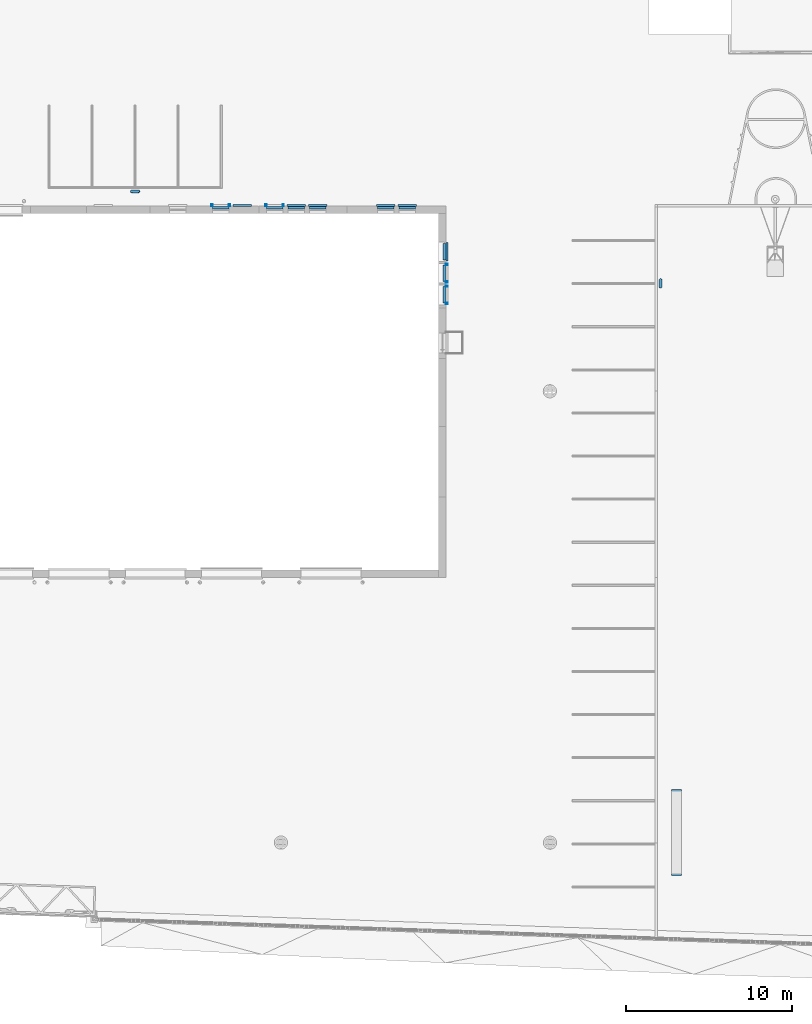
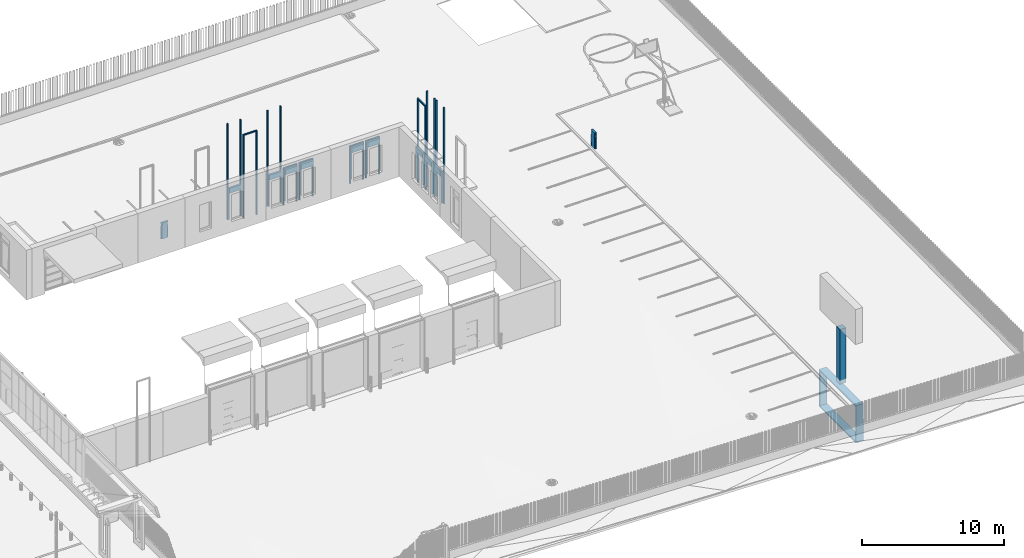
# One storey, part 51 of 77: 22 discrete accessories.
"""IFC2X3 building model written with IfcOpenShell, lengths in millimetres."""

from ifc_helpers import new_model, entity, si_unit, converted_unit, derived_unit, direction, frame, frame_2d, origin, origin_2d_with_axis, place, context, subcontext, project, spatial, polyline, rectangle, outline, extrude, faceted_brep, source, transform, mapped, material, type_object, type_shapes, element, save


model = new_model("IFC2X3")

# Units and contexts
model_context = context("Model", 3, precision=0.01, world=origin(), true_north=direction((6.12303176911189e-17, 1.0)))
body_context = subcontext(model_context, "Body", "Model", "MODEL_VIEW")
ifc_project = project(units=[si_unit("LENGTHUNIT", "METRE", prefix="MILLI"), si_unit("AREAUNIT", "SQUARE_METRE"), si_unit("VOLUMEUNIT", "CUBIC_METRE"), converted_unit("PLANEANGLEUNIT", "DEGREE", entity("IfcRatioMeasure", 0.0174532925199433), si_unit("PLANEANGLEUNIT", "RADIAN"), dimensions=[0, 0, 0, 0, 0, 0, 0]), si_unit("MASSUNIT", "GRAM", prefix="KILO"), derived_unit("MASSDENSITYUNIT", [(si_unit("MASSUNIT", "GRAM", prefix="KILO"), 1), (si_unit("LENGTHUNIT", "METRE"), -3)]), si_unit("TIMEUNIT", "SECOND"), si_unit("FREQUENCYUNIT", "HERTZ"), si_unit("THERMODYNAMICTEMPERATUREUNIT", "DEGREE_CELSIUS"), derived_unit("THERMALTRANSMITTANCEUNIT", [(si_unit("MASSUNIT", "GRAM", prefix="KILO"), 1), (si_unit("THERMODYNAMICTEMPERATUREUNIT", "KELVIN"), -1), (si_unit("TIMEUNIT", "SECOND"), -3)]), derived_unit("VOLUMETRICFLOWRATEUNIT", [(si_unit("LENGTHUNIT", "METRE"), 3), (si_unit("TIMEUNIT", "SECOND"), -1)]), si_unit("ELECTRICCURRENTUNIT", "AMPERE"), si_unit("ELECTRICVOLTAGEUNIT", "VOLT"), si_unit("POWERUNIT", "WATT"), si_unit("FORCEUNIT", "NEWTON", prefix="KILO"), si_unit("ILLUMINANCEUNIT", "LUX"), si_unit("LUMINOUSFLUXUNIT", "LUMEN"), si_unit("LUMINOUSINTENSITYUNIT", "CANDELA"), derived_unit("USERDEFINED", [(si_unit("MASSUNIT", "GRAM", prefix="KILO"), -1), (si_unit("LENGTHUNIT", "METRE"), -2), (si_unit("TIMEUNIT", "SECOND"), 3), (si_unit("LUMINOUSFLUXUNIT", "LUMEN"), 1)]), derived_unit("LINEARVELOCITYUNIT", [(si_unit("LENGTHUNIT", "METRE"), 1), (si_unit("TIMEUNIT", "SECOND"), -1)]), si_unit("PRESSUREUNIT", "PASCAL"), derived_unit("USERDEFINED", [(si_unit("LENGTHUNIT", "METRE"), -2), (si_unit("MASSUNIT", "GRAM", prefix="KILO"), 1), (si_unit("TIMEUNIT", "SECOND"), -2)])], contexts=[model_context])

# Site, building, storey
site_placement = place(None, origin())
site = spatial("IfcSite", under=ifc_project, at=site_placement, Name="Default", CompositionType="ELEMENT")
building_placement = place(site_placement, origin())
building = spatial("IfcBuilding", under=site, at=building_placement, CompositionType="ELEMENT")
storey_placement = place(building_placement, origin())
storey = spatial("IfcBuildingStorey", under=building, at=storey_placement, Name="1. KORRUS", CompositionType="ELEMENT", Elevation=0.0)

# Discrete accessories
ifc_material_1 = material(Name="Must-al-komposiitplaat")
discrete_accessory_type_1 = type_object("IfcDiscreteAccessoryType", Name="akna-ylaplekid1000", material=ifc_material_1)
shared_shape_1 = source(origin(), body_context, "Body", "SweptSolid", [
    extrude(rectangle(XDim=20.0, YDim=959.999999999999, at=origin_2d_with_axis()), frame((0.0, -10.0, 2270.0), z_axis=(0.0, 0.0, 1.0), x_axis=(0.0, 1.0, 0.0)), (0.0, 0.0, 1.0), 409.999999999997),
    extrude(outline(polyline([(-500.0, -1370.0), (500.0, -1370.0), (500.0, 1360.0), (480.0, 1360.0), (480.0, -1350.0), (-480.0, -1350.0), (-480.0, 1360.0), (-500.0, 1360.0), (-500.0, -1370.0)])), frame((0.0, -160.0, 1330.0), z_axis=(0.0, 1.0, 0.0), x_axis=(1.0, 0.0, 0.0)), (0.0, 0.0, 1.0), 160.0),
])
type_shapes(discrete_accessory_type_1, [shared_shape_1])
for number, where, z_axis, x_axis, name in (
    (1, (26350.0493607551, 21770.0517807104, 500.0), (0.0, 0.0, 1.0), (-1.0, 0.0, 0.0), "akna-ylaplekid:akna-ylaplekid1000"),
    (2, (29604.2746587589, 21770.0517807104, 500.0), (0.0, 0.0, 1.0), (-1.0, 0.0, 0.0), "akna-ylaplekid:akna-ylaplekid1000"),
    (3, (30904.2746587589, 21770.0517807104, 500.0), (0.0, 0.0, 1.0), (-1.0, 0.0, 0.0), "akna-ylaplekid:akna-ylaplekid1000"),
    (4, (32204.2746587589, 21770.0517807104, 500.0), (0.0, 0.0, 1.0), (-1.0, 0.0, 0.0), "akna-ylaplekid:akna-ylaplekid1000"),
    (5, (36304.1955551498, 21770.0517807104, 500.0), (0.0, 0.0, 1.0), (-1.0, 0.0, 0.0), "akna-ylaplekid:akna-ylaplekid1000"),
    (6, (37604.1955551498, 21770.0517807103, 500.0), (0.0, 0.0, 1.0), (-1.0, 0.0, 0.0), "akna-ylaplekid:akna-ylaplekid1000"),
    (7, (39770.0, 19200.0, 500.0), (0.0, 0.0, 1.0), (0.0, 1.0, 0.0), "akna-ylaplekid:akna-ylaplekid1000"),
    (8, (39770.0, 17900.0, 500.0), (0.0, 0.0, 1.0), (0.0, 1.0, 0.0), "akna-ylaplekid:akna-ylaplekid1000"),
    (9, (39770.0, 16600.0, 500.0), (0.0, 0.0, 1.0), (0.0, 1.0, 0.0), "akna-ylaplekid:akna-ylaplekid1000"),
):
    element("IfcDiscreteAccessory", number, at=place(storey_placement, frame(where, z_axis=z_axis, x_axis=x_axis)), inside=storey, type_object=discrete_accessory_type_1, material=ifc_material_1, Name=name, ObjectType="akna-ylaplekid1000", context=body_context, shape_type="MappedRepresentation", body=[
        mapped(shared_shape_1, transform((0.0, 0.0, 0.0), scale=1.0)),
    ])
ifc_material_2 = material(Name="Default New Material-must-varv")
discrete_accessory_type_2 = type_object("IfcDiscreteAccessoryType", Name="akna-ylaplekid1000", material=ifc_material_2)
shared_shape_2 = source(origin(), body_context, "Body", "Brep", [
    faceted_brep([(80.0, 120.0, 0.0), (80.0, 0.0, 0.0), (76.0, 0.0, 0.0), (76.0, 116.0, 0.0), (4.0, 116.0, 0.0), (4.0, 0.0, 0.0), (0.0, 0.0, 0.0), (0.0, 120.0, 0.0), (80.0, 116.0, 7184.0), (80.0, 116.0, 7256.31946847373), (80.0, 0.0, 7265.9861351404), (80.0, 0.0, 7184.0), (80.0, 0.0, 7180.0), (1040.0, 0.0, 7180.0), (1040.0, 0.0, 0.0), (1044.0, 0.0, 0.0), (1044.0, 0.0, 7265.9861351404), (1116.0, 0.0, 7265.9861351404), (1116.0, 0.0, 0.0), (1120.0, 0.0, 0.0), (1120.0, 0.0, 7270.0), (0.0, 0.0, 7270.0), (4.0, 0.0, 7265.9861351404), (76.0, 0.0, 7265.9861351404), (1040.0, 0.0, 7184.0), (1040.0, 0.0, 7265.9861351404), (76.0, 116.0, 7256.31946847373), (4.0, 116.0, 7256.31946847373), (0.0, 120.0, 7260.0), (1120.0, 120.0, 7260.0), (1120.0, 120.0, 0.0), (1040.0, 120.0, 0.0), (1040.0, 120.0, 7180.0), (80.0, 120.0, 7180.0), (1040.0, 116.0, 7184.0), (1040.0, 116.0, 7256.31946847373), (1116.0, 116.0, 0.0), (1044.0, 116.0, 0.0), (1044.0, 116.0, 7256.31946847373), (1116.0, 116.0, 7256.31946847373)], [[[0, 1, 2, 3, 4, 5, 6, 7]], [[8, 9, 10, 11]], [[1, 12, 13, 14, 15, 16, 17, 18, 19, 20, 21, 6, 5, 22, 23, 2], [24, 11, 10, 25]], [[2, 23, 26, 3]], [[3, 26, 27, 4]], [[4, 27, 22, 5]], [[6, 21, 28, 7]], [[7, 28, 29, 30, 31, 32, 33, 0]], [[20, 29, 28, 21]], [[34, 35, 9, 8]], [[8, 11, 24, 34]], [[32, 13, 12, 33]], [[31, 30, 19, 18, 36, 37, 15, 14]], [[24, 25, 35, 34]], [[37, 38, 16, 15]], [[36, 39, 38, 37]], [[18, 17, 39, 36]], [[30, 29, 20, 19]], [[22, 27, 26, 23]], [[10, 9, 35, 25]], [[16, 38, 39, 17]], [[14, 13, 32, 31]], [[0, 33, 12, 1]]]),
])
type_shapes(discrete_accessory_type_2, [shared_shape_2])
discrete_accessory_1_placement = place(storey_placement, frame((27093.0493607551, 21930.0517807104, 0.0)))
element("IfcDiscreteAccessory", 10, at=discrete_accessory_1_placement, inside=storey, type_object=discrete_accessory_type_2, material=ifc_material_2, Name="akna-ylaplekid_2k-A:akna-ylaplekid1000", ObjectType="akna-ylaplekid1000", context=body_context, shape_type="MappedRepresentation", body=[
    mapped(shared_shape_2, transform((0.0, 0.0, 0.0), scale=1.0)),
])
discrete_accessory_2_placement = place(storey_placement, frame((39930.0, 19760.0, 0.0), z_axis=(0.0, 0.0, 1.0), x_axis=(0.0, -1.0, 0.0)))
element("IfcDiscreteAccessory", 11, at=discrete_accessory_2_placement, inside=storey, type_object=discrete_accessory_type_2, material=ifc_material_2, Name="akna-ylaplekid_2k-A:akna-ylaplekid1000", ObjectType="akna-ylaplekid1000", context=body_context, shape_type="MappedRepresentation", body=[
    mapped(shared_shape_2, transform((0.0, 0.0, 0.0), scale=1.0)),
])
discrete_accessory_type_3 = type_object("IfcDiscreteAccessoryType", Name="akna-ylaplekid1000", material=ifc_material_2)
shared_shape_3 = source(origin(), body_context, "Body", "Brep", [
    faceted_brep([(1120.0, 120.0, 0.0), (1120.0, 0.0, 0.0), (1116.0, 0.0, 0.0), (1116.0, 116.0, 0.0), (1044.0, 116.0, 0.0), (1044.0, 0.0, 0.0), (1040.0, 0.0, 0.0), (1040.0, 120.0, 0.0), (1120.0, 120.0, 8262.51946847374), (1120.0, 0.0, 8283.67870615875), (1040.0, 0.0, 8283.67870615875), (1044.0, 0.000303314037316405, 8279.61694622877), (1116.0, 0.0, 8279.61522604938), (1116.0, 0.000303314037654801, 8279.61694622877), (1116.0, 116.0, 8259.1612962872), (1116.0, 116.0, 8259.16306994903), (1044.0, 116.0, 8259.1612962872), (1044.0, 116.000303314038, 8259.16301646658), (1044.0, 0.0, 8279.61522604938), (1040.0, 120.0, 8262.51946847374), (1044.0, 116.0, 8259.16306994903), (1116.0, 116.000303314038, 8259.16301646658)], [[[0, 1, 2, 3, 4, 5, 6, 7]], [[0, 8, 9, 1]], [[9, 10, 6, 5, 11, 12, 2, 1]], [[2, 13, 14, 3]], [[3, 15, 16, 4]], [[4, 17, 18, 5]], [[10, 19, 7, 6]], [[19, 8, 0, 7]], [[11, 20, 21, 13]], [[10, 9, 8, 19]]]),
    faceted_brep([(80.0, 120.0, 0.0), (80.0, 0.0, 0.0), (76.0, 0.0, 0.0), (76.0, 116.0, 0.0), (4.0, 116.0, 0.0), (4.0, 0.0, 0.0), (0.0, 0.0, 0.0), (0.0, 120.0, 0.0), (80.0, 120.0, 8262.51769481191), (80.0, 0.0, 8283.67693249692), (0.0, 0.0, 8283.67693249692), (4.0, 0.0, 8279.61522604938), (76.0, 0.0, 8279.61522604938), (76.0, 116.0, 8259.1612962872), (4.0, 116.0, 8259.1612962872), (0.0, 120.0, 8262.51769481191)], [[[0, 1, 2, 3, 4, 5, 6, 7]], [[0, 8, 9, 1]], [[9, 10, 6, 5, 11, 12, 2, 1]], [[2, 12, 13, 3]], [[3, 13, 14, 4]], [[4, 14, 11, 5]], [[10, 15, 7, 6]], [[15, 8, 0, 7]], [[11, 14, 13, 12]], [[10, 9, 8, 15]]]),
])
type_shapes(discrete_accessory_type_3, [shared_shape_3])
for number, where, z_axis, x_axis in (
    (12, (39930.0, 17160.0, 387.48053152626), (0.0, 0.0, 1.0), (0.0, -1.0, 0.0)),
    (13, (39930.0, 18460.0, 387.48053152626), (0.0, 0.0, 1.0), (0.0, -1.0, 0.0)),
):
    element("IfcDiscreteAccessory", number, at=place(storey_placement, frame(where, z_axis=z_axis, x_axis=x_axis)), inside=storey, type_object=discrete_accessory_type_3, material=ifc_material_2, Name="akna-ylaplekid_2k-U:akna-ylaplekid1000", ObjectType="akna-ylaplekid1000", context=body_context, shape_type="MappedRepresentation", body=[
        mapped(shared_shape_3, transform((0.0, 0.0, 0.0), scale=1.0)),
    ])
for number, where in (
    (14, (25790.0493607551, 21930.0517807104, 387.480531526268)),
    (15, (29044.2746587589, 21930.0517807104, 387.48053152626)),
):
    element("IfcDiscreteAccessory", number, at=place(storey_placement, frame(where)), inside=storey, type_object=discrete_accessory_type_3, material=ifc_material_2, Name="akna-ylaplekid_2k-U:akna-ylaplekid1000", ObjectType="akna-ylaplekid1000", context=body_context, shape_type="MappedRepresentation", body=[
        mapped(shared_shape_3, transform((0.0, 0.0, 0.0), scale=1.0)),
    ])
discrete_accessory_type_4 = type_object("IfcDiscreteAccessoryType", Name="akna-ylaplekid1000", material=ifc_material_2)
shared_shape_4 = source(origin(), body_context, "Body", "Brep", [
    faceted_brep([(80.0, 120.0, 0.0), (80.0, 0.0, 0.0), (76.0, 0.0, 0.0), (76.0, 116.0, 0.0), (4.0, 116.0, 0.0), (4.0, 0.0, 0.0), (0.0, 0.0, 0.0), (0.0, 120.0, 0.0), (80.0, 116.0, 3184.0), (80.0, 116.0, 3256.31946847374), (80.0, 0.0, 3265.9861351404), (80.0, 0.0, 3184.0), (80.0, 0.0, 3180.0), (1040.0, 0.0, 3180.0), (1040.0, 0.0, 0.0), (1044.0, 0.0, 0.0), (1044.0, 0.0, 3265.9861351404), (1116.0, 0.0, 3265.9861351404), (1116.0, 0.0, 0.0), (1120.0, 0.0, 0.0), (1120.0, 0.0, 3270.0), (0.0, 0.0, 3270.0), (4.0, 0.0, 3265.9861351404), (76.0, 0.0, 3265.9861351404), (1040.0, 0.0, 3184.0), (1040.0, 0.0, 3265.9861351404), (76.0, 116.0, 3256.31946847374), (4.0, 116.0, 3256.31946847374), (0.0, 120.0, 3260.0), (1120.0, 120.0, 3260.0), (1120.0, 120.0, 0.0), (1040.0, 120.0, 0.0), (1040.0, 120.0, 3180.0), (80.0, 120.0, 3180.0), (1040.0, 116.0, 3184.0), (1040.0, 116.0, 3256.31946847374), (1116.0, 116.0, 0.0), (1044.0, 116.0, 0.0), (1044.0, 116.0, 3256.31946847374), (1116.0, 116.0, 3256.31946847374)], [[[0, 1, 2, 3, 4, 5, 6, 7]], [[8, 9, 10, 11]], [[1, 12, 13, 14, 15, 16, 17, 18, 19, 20, 21, 6, 5, 22, 23, 2], [24, 11, 10, 25]], [[2, 23, 26, 3]], [[3, 26, 27, 4]], [[4, 27, 22, 5]], [[6, 21, 28, 7]], [[7, 28, 29, 30, 31, 32, 33, 0]], [[20, 29, 28, 21]], [[34, 35, 9, 8]], [[8, 11, 24, 34]], [[32, 13, 12, 33]], [[31, 30, 19, 18, 36, 37, 15, 14]], [[24, 25, 35, 34]], [[37, 38, 16, 15]], [[36, 39, 38, 37]], [[18, 17, 39, 36]], [[30, 29, 20, 19]], [[22, 27, 26, 23]], [[10, 9, 35, 25]], [[16, 38, 39, 17]], [[14, 13, 32, 31]], [[0, 33, 12, 1]]]),
])
type_shapes(discrete_accessory_type_4, [shared_shape_4])
for number, where in (
    (16, (30344.2746587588, 21930.0517807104, 0.0)),
    (17, (31644.2746587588, 21930.0517807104, 0.0)),
    (18, (35744.1955551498, 21930.0517807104, 0.0)),
    (19, (37044.1955551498, 21930.0517807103, 0.0)),
):
    element("IfcDiscreteAccessory", number, at=place(storey_placement, frame(where)), inside=storey, type_object=discrete_accessory_type_4, material=ifc_material_2, Name="akna-ylaplekid_1k-A:akna-ylaplekid1000", ObjectType="akna-ylaplekid1000", context=body_context, shape_type="MappedRepresentation", body=[
        mapped(shared_shape_4, transform((0.0, 0.0, 0.0), scale=1.0)),
    ])
discrete_accessory_type_5 = type_object("IfcDiscreteAccessoryType", Name="auto-el-laadija")
shared_shape_5 = source(origin(), body_context, "Body", "Brep", [
    faceted_brep([(136.57549028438, -222.627590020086, 1264.59134032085), (46.57549028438, -222.627590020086, 1264.59134032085), (46.5754902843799, -222.627590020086, 1174.59134032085), (136.57549028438, -222.627590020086, 1174.59134032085), (136.57549028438, 222.627590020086, 1264.59134032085), (136.57549028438, 222.627590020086, 1174.59134032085), (46.5754902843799, 222.627590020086, 1174.59134032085), (46.57549028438, 222.627590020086, 1264.59134032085)], [[[0, 1, 2, 3]], [[4, 5, 6, 7]], [[1, 0, 4, 7]], [[2, 1, 7, 6]], [[3, 2, 6, 5]], [[0, 3, 5, 4]]]),
    faceted_brep([(7.08098328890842, -218.469237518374, 1105.70549673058), (5.0, -200.0, 943.418449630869), (7.82815641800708, -221.481980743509, 943.418449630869), (16.1198914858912, -241.5, 943.418449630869), (13.2195839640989, -236.012350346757, 1088.16238390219), (46.4999999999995, -271.880108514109, 943.418449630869), (66.5180192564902, -280.171843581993, 943.418449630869), (51.9876496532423, -274.780416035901, 1049.39431821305), (36.2503464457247, -264.892013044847, 1059.2827212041), (29.3101371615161, -258.689862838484, 943.418449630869), (23.1079869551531, -251.749653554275, 1072.42508069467), (69.5307624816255, -280.919016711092, 1043.25571753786), (88.0, -283.0, 943.418449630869), (5.0, -200.0, 1124.17473424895), (88.0, -283.0, 1041.17473424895), (106.469237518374, -280.919016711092, 1043.25571753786), (109.481980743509, -280.171843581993, 943.418449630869), (129.499999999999, -271.880108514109, 943.418449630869), (124.012350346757, -274.780416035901, 1049.39431821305), (159.880108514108, -241.500000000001, 943.418449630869), (168.171843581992, -221.48198074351, 943.418449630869), (162.780416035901, -236.012350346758, 1088.16238390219), (152.892013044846, -251.749653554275, 1072.42508069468), (146.689862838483, -258.689862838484, 943.418449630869), (139.749653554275, -264.892013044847, 1059.2827212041), (168.919016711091, -218.469237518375, 1105.70549673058), (171.0, -200.0, 943.418449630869), (171.0, -200.0, 1124.17473424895), (171.0, -200.0, 1375.0), (171.0, -166.469697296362, 1375.0), (5.0, -166.469697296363, 1375.0), (5.0, -200.0, 1375.0), (7.82815641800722, -221.48198074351, 1375.0), (16.1198914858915, -241.500000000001, 1375.0), (29.3101371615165, -258.689862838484, 1375.0), (46.5, -271.880108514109, 1375.0), (66.5180192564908, -280.171843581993, 1375.0), (88.0, -283.0, 1375.0), (109.481980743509, -280.171843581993, 1375.0), (129.5, -271.880108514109, 1375.0), (146.689862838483, -258.689862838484, 1375.0), (159.880108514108, -241.5, 1375.0), (168.171843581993, -221.481980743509, 1375.0), (5.0, -166.469697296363, 943.418449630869), (171.0, -166.469697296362, 943.418449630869), (171.0, -200.0, 1307.37249850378), (171.0, -194.683683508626, 1306.43508846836), (171.0, -194.683683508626, 1129.49105074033), (7.41182915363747, -219.863200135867, 1310.87491661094), (14.5071498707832, -238.572023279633, 1314.17378690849), (5.0, -200.0, 1307.37249850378), (40.8506260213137, -268.307660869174, 1319.4169821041), (58.5677943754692, -277.60634814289, 1321.05659155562), (25.8736079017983, -255.039180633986, 1317.07739104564), (77.9954555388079, -282.394836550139, 1321.90093125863), (117.43220562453, -277.60634814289, 1321.05659155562), (135.149373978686, -268.307660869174, 1319.4169821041), (98.0045444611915, -282.394836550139, 1321.90093125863), (168.588170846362, -219.863200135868, 1310.87491661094), (150.126392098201, -255.039180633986, 1317.07739104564), (161.492850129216, -238.572023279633, 1314.17378690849), (5.0, -194.683683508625, 1129.49105074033), (5.0, -194.683683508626, 1306.43508846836)], [[[0, 1, 2]], [[3, 4, 2]], [[5, 6, 7]], [[8, 9, 5]], [[10, 3, 9]], [[11, 6, 12]], [[0, 13, 1]], [[4, 0, 2]], [[11, 7, 6]], [[8, 10, 9]], [[7, 8, 5]], [[4, 3, 10]], [[12, 14, 11]], [[14, 12, 15]], [[15, 12, 16]], [[17, 18, 16]], [[19, 20, 21]], [[22, 23, 19]], [[24, 17, 23]], [[25, 20, 26]], [[18, 15, 16]], [[24, 18, 17]], [[21, 22, 19]], [[27, 25, 26]], [[21, 20, 25]], [[24, 23, 22]], [[28, 29, 30, 31, 32, 33, 34, 35, 36, 37, 38, 39, 40, 41, 42]], [[2, 1, 43, 44, 26, 20, 19, 23, 17, 16, 12, 6, 5, 9, 3]], [[30, 29, 44, 43]], [[28, 45, 46, 47, 27, 26, 44, 29]], [[48, 49, 32]], [[50, 48, 31]], [[51, 52, 35]], [[53, 51, 34]], [[49, 53, 33]], [[31, 48, 32]], [[32, 49, 33]], [[51, 35, 34]], [[34, 33, 53]], [[35, 52, 36]], [[54, 37, 36]], [[54, 36, 52]], [[55, 56, 39]], [[57, 55, 38]], [[58, 45, 28]], [[59, 60, 41]], [[58, 42, 60]], [[56, 59, 40]], [[55, 39, 38]], [[38, 37, 57]], [[56, 40, 39]], [[59, 41, 40]], [[41, 60, 42]], [[58, 28, 42]], [[57, 37, 54]], [[30, 43, 1, 13, 61, 62, 50, 31]], [[62, 61, 47, 46]], [[24, 22, 21, 25, 27, 47, 61, 13, 0, 4, 10, 8, 7, 11, 14, 15, 18]], [[60, 59, 56, 55, 57, 54, 52, 51, 53, 49, 48, 50, 62, 46, 45, 58]]]),
    faceted_brep([(168.919016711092, 218.469237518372, 1105.70549673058), (171.0, 200.0, 943.418449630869), (168.171843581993, 221.481980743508, 943.418449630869), (159.880108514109, 241.499999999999, 943.418449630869), (162.780416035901, 236.012350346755, 1088.16238390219), (129.500000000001, 271.880108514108, 943.418449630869), (109.48198074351, 280.171843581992, 943.418449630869), (124.012350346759, 274.7804160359, 1049.39431821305), (139.749653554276, 264.892013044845, 1059.2827212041), (146.689862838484, 258.689862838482, 943.418449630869), (152.892013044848, 251.749653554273, 1072.42508069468), (106.469237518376, 280.919016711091, 1043.25571753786), (88.0, 283.0, 943.418449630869), (171.0, 200.0, 1124.17473424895), (88.0, 283.0, 1041.17473424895), (69.5307624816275, 280.919016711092, 1043.25571753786), (66.5180192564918, 280.171843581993, 943.418449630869), (46.500000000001, 271.880108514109, 943.418449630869), (51.9876496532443, 274.780416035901, 1049.39431821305), (16.119891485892, 241.500000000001, 943.418449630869), (7.82815641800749, 221.48198074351, 943.418449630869), (13.2195839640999, 236.012350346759, 1088.16238390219), (23.1079869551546, 251.749653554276, 1072.42508069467), (29.3101371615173, 258.689862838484, 943.418449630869), (36.2503464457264, 264.892013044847, 1059.2827212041), (7.08098328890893, 218.469237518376, 1105.70549673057), (5.0, 200.0, 943.418449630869), (5.0, 200.0, 1124.17473424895), (5.0, 166.469697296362, 1375.0), (171.0, 166.469697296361, 1375.0), (171.0, 200.0, 1375.0), (168.171843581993, 221.481980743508, 1375.0), (159.880108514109, 241.499999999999, 1375.0), (146.689862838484, 258.689862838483, 1375.0), (129.5, 271.880108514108, 1375.0), (109.48198074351, 280.171843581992, 1375.0), (88.0, 283.0, 1375.0), (66.5180192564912, 280.171843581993, 1375.0), (46.5000000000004, 271.880108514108, 1375.0), (29.3101371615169, 258.689862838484, 1375.0), (16.1198914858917, 241.5, 1375.0), (7.82815641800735, 221.48198074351, 1375.0), (5.0, 200.0, 1375.0), (171.0, 166.469697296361, 943.418449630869), (5.0, 166.469697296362, 943.418449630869), (5.0, 194.683683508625, 1129.49105074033), (5.0, 194.683683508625, 1306.43508846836), (171.0, 194.683683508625, 1306.43508846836), (171.0, 194.683683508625, 1129.49105074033), (135.149373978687, 268.307660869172, 1319.4169821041), (150.126392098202, 255.039180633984, 1317.07739104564), (161.492850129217, 238.572023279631, 1314.17378690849), (168.588170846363, 219.863200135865, 1310.87491661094), (171.0, 200.0, 1307.37249850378), (5.0, 200.0, 1307.37249850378), (7.41182915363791, 219.863200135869, 1310.87491661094), (14.5071498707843, 238.572023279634, 1314.17378690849), (25.8736079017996, 255.039180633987, 1317.07739104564), (40.8506260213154, 268.307660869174, 1319.4169821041), (58.567794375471, 277.60634814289, 1321.05659155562), (77.9954555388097, 282.394836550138, 1321.90093125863), (98.0045444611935, 282.394836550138, 1321.90093125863), (117.432205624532, 277.606348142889, 1321.05659155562)], [[[0, 1, 2]], [[3, 4, 2]], [[5, 6, 7]], [[8, 9, 5]], [[10, 3, 9]], [[11, 6, 12]], [[0, 13, 1]], [[4, 0, 2]], [[11, 7, 6]], [[8, 10, 9]], [[7, 8, 5]], [[4, 3, 10]], [[12, 14, 11]], [[14, 12, 15]], [[15, 12, 16]], [[17, 18, 16]], [[19, 20, 21]], [[22, 23, 19]], [[24, 17, 23]], [[25, 20, 26]], [[18, 15, 16]], [[24, 18, 17]], [[21, 22, 19]], [[27, 25, 26]], [[21, 20, 25]], [[24, 23, 22]], [[28, 29, 30, 31, 32, 33, 34, 35, 36, 37, 38, 39, 40, 41, 42]], [[12, 6, 5, 9, 3, 2, 1, 43, 44, 26, 20, 19, 23, 17, 16]], [[29, 28, 44, 43]], [[45, 46, 47, 48]], [[4, 10, 8, 7, 11, 14, 15, 18, 24, 22, 21, 25, 27, 45, 48, 13, 0]], [[49, 50, 51, 52, 53, 47, 46, 54, 55, 56, 57, 58, 59, 60, 61, 62]], [[29, 43, 1, 13, 48, 47, 53, 30]], [[52, 51, 31]], [[53, 52, 30]], [[49, 62, 34]], [[50, 49, 33]], [[51, 50, 32]], [[30, 52, 31]], [[31, 51, 32]], [[49, 34, 33]], [[33, 32, 50]], [[34, 62, 35]], [[61, 36, 35]], [[61, 35, 62]], [[59, 58, 38]], [[60, 59, 37]], [[55, 54, 42]], [[57, 56, 40]], [[55, 41, 56]], [[58, 57, 39]], [[60, 37, 36]], [[59, 38, 37]], [[58, 39, 38]], [[57, 40, 39]], [[41, 40, 56]], [[55, 42, 41]], [[60, 36, 61]], [[42, 54, 46, 45, 27, 26, 44, 28]]]),
    faceted_brep([(0.0, -166.469697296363, 1375.0), (176.0, -166.469697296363, 1375.0), (176.0, 166.469697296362, 1375.0), (0.0, 166.469697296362, 1375.0), (132.0, 276.21023553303, 0.0), (150.225396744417, 262.225396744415, 0.0), (164.210235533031, 244.0, 0.0), (173.001472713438, 222.776075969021, 0.0), (176.0, 200.0, 0.0), (176.0, -200.0, 0.0), (173.001472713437, -222.776075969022, 0.0), (164.210235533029, -244.0, 0.0), (150.225396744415, -262.225396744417, 0.0), (132.0, -276.210235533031, 0.0), (110.77607596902, -285.001472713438, 0.0), (88.0, -288.0, 0.0), (65.2239240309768, -285.001472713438, 0.0), (44.0, -276.210235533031, 0.0), (25.7746032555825, -262.225396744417, 0.0), (11.7897644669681, -244.0, 0.0), (2.99852728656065, -222.776075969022, 0.0), (0.0, -200.0, 0.0), (0.0, 200.0, 0.0), (2.99852728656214, 222.776075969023, 0.0), (11.7897644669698, 244.0, 0.0), (25.7746032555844, 262.225396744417, 0.0), (44.0, 276.210235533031, 0.0), (65.2239240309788, 285.001472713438, 0.0), (88.0, 288.0, 0.0), (110.776075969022, 285.001472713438, 0.0), (176.0, -166.469697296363, 1072.8522232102), (176.0, -200.0, 1039.32192050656), (176.0, -200.0, 384.220095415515), (176.0, 200.0, 384.220095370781), (176.0, 200.0, 1039.32192050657), (176.0, 166.469697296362, 1072.8522232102), (0.0, 166.469697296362, 1072.8522232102), (0.0, 200.0, 1039.32192050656), (0.0, 200.0, 384.220095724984), (0.0, -200.0, 384.22009434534), (0.0, -200.0, 1039.32192050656), (0.0, -166.469697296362, 1072.8522232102), (173.793656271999, -219.581842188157, 1019.74007831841), (167.285260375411, -238.181769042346, 1001.14015146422), (171.374089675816, -228.156014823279, 521.121902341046), (25.2930594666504, -261.740097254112, 512.690801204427), (13.0742798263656, -246.153401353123, 604.053527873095), (54.3238579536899, -281.301398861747, 452.955079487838), (156.801170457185, -254.86710256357, 984.454817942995), (162.925720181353, -246.153401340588, 604.05352810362), (39.1712746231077, -273.210351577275, 600.478838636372), (150.706940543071, -261.740097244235, 512.690801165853), (49.8182309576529, -279.285260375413, 960.036660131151), (98.0310807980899, -287.426411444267, 389.334554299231), (117.366468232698, -282.955473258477, 490.918085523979), (126.181769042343, -279.285260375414, 960.036660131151), (135.169490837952, -274.290235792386, 578.299141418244), (142.867102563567, -268.801170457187, 970.520750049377), (2.20634372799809, -219.581842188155, 1019.74007831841), (4.62591033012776, -228.156014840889, 521.121902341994), (8.71473962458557, -238.181769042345, 1001.14015146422), (107.581842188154, -285.793656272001, 953.528264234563), (88.0, -288.0, 951.321920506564), (78.0367917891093, -287.434172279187, 475.660960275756), (68.4181578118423, -285.793656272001, 953.528264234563), (33.1328974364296, -268.801170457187, 970.520750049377), (19.1988295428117, -254.867102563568, 984.454817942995), (2.20634372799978, 219.581842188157, 1019.74007831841), (8.71473962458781, 238.181769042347, 1001.14015146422), (4.62591032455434, 228.156014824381, 521.121902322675), (150.706940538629, 261.740097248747, 512.690801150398), (162.925720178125, 246.15340134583, 604.053528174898), (121.676142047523, 281.301398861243, 452.955079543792), (19.1988295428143, 254.86710256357, 984.454817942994), (13.0742798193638, 246.153401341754, 604.053528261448), (136.828725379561, 273.210351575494, 600.478838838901), (25.2930594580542, 261.740097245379, 512.690801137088), (126.181769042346, 279.285260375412, 960.036660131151), (77.9689192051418, 287.426411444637, 389.334554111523), (58.6335317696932, 282.955473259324, 490.918085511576), (49.8182309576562, 279.285260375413, 960.03666013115), (40.8305091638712, 274.290235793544, 578.299141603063), (33.1328974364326, 268.801170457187, 970.520750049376), (173.793656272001, 219.581842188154, 1019.74007831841), (171.374089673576, 228.156014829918, 521.121902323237), (167.285260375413, 238.181769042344, 1001.14015146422), (68.4181578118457, 285.793656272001, 953.528264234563), (88.0, 288.0, 951.321920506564), (97.963208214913, 287.434172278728, 475.660960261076), (107.581842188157, 285.793656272, 953.528264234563), (142.867102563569, 268.801170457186, 970.520750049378), (156.801170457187, 254.867102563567, 984.454817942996)], [[[0, 1, 2, 3]], [[4, 5, 6, 7, 8, 9, 10, 11, 12, 13, 14, 15, 16, 17, 18, 19, 20, 21, 22, 23, 24, 25, 26, 27, 28, 29]], [[1, 30, 31, 32, 9, 8, 33, 34, 35, 2]], [[3, 36, 37, 38, 22, 21, 39, 40, 41, 0]], [[42, 43, 44]], [[45, 46, 19]], [[17, 16, 47]], [[48, 49, 43]], [[50, 17, 47]], [[50, 45, 18]], [[19, 18, 45]], [[11, 49, 51]], [[52, 50, 47]], [[53, 14, 54]], [[55, 56, 57]], [[21, 20, 39]], [[58, 59, 60]], [[61, 62, 53]], [[48, 51, 49]], [[63, 64, 47]], [[47, 64, 52]], [[65, 66, 45]], [[60, 46, 66]], [[45, 50, 65]], [[46, 60, 59]], [[32, 31, 42]], [[62, 64, 63]], [[11, 51, 12]], [[62, 63, 53]], [[53, 63, 15]], [[19, 46, 59]], [[56, 13, 12]], [[10, 44, 11]], [[13, 56, 54]], [[44, 49, 11]], [[14, 53, 15]], [[12, 51, 56]], [[57, 56, 51]], [[53, 54, 61]], [[39, 59, 58]], [[19, 59, 20]], [[55, 61, 54]], [[54, 56, 55]], [[32, 44, 10]], [[50, 18, 17]], [[44, 43, 49]], [[13, 54, 14]], [[32, 42, 44]], [[10, 9, 32]], [[16, 15, 63]], [[57, 51, 48]], [[58, 40, 39]], [[52, 65, 50]], [[39, 20, 59]], [[66, 46, 45]], [[63, 47, 16]], [[67, 68, 69]], [[70, 71, 6]], [[4, 29, 72]], [[73, 74, 68]], [[75, 4, 72]], [[75, 70, 5]], [[6, 5, 70]], [[24, 74, 76]], [[77, 75, 72]], [[78, 27, 79]], [[80, 81, 82]], [[8, 7, 33]], [[83, 84, 85]], [[86, 87, 78]], [[73, 76, 74]], [[88, 89, 72]], [[72, 89, 77]], [[90, 91, 70]], [[85, 71, 91]], [[70, 75, 90]], [[71, 85, 84]], [[38, 37, 67]], [[87, 89, 88]], [[24, 76, 25]], [[87, 88, 78]], [[78, 88, 28]], [[6, 71, 84]], [[81, 26, 25]], [[23, 69, 24]], [[26, 81, 79]], [[69, 74, 24]], [[27, 78, 28]], [[25, 76, 81]], [[82, 81, 76]], [[78, 79, 86]], [[33, 84, 83]], [[6, 84, 7]], [[80, 86, 79]], [[79, 81, 80]], [[38, 69, 23]], [[75, 5, 4]], [[69, 68, 74]], [[26, 79, 27]], [[38, 67, 69]], [[23, 22, 38]], [[29, 28, 88]], [[82, 76, 73]], [[83, 34, 33]], [[77, 90, 75]], [[33, 7, 84]], [[91, 71, 70]], [[88, 72, 29]], [[85, 91, 90, 77, 89, 87, 86, 80, 82, 73, 68, 67, 37, 36, 35, 34, 83]], [[3, 2, 35, 36]], [[41, 30, 1, 0]], [[57, 48, 43, 42, 31, 30, 41, 40, 58, 60, 66, 65, 52, 64, 62, 61, 55]]]),
])
type_shapes(discrete_accessory_type_5, [shared_shape_5])
discrete_accessory_3_placement = place(storey_placement, frame((52800.0, 17289.8698283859, 0.0)))
element("IfcDiscreteAccessory", 20, at=discrete_accessory_3_placement, inside=storey, type_object=discrete_accessory_type_5, Name="auto-el-laadija:auto-el-laadija", ObjectType="auto-el-laadija", context=body_context, shape_type="MappedRepresentation", body=[
    mapped(shared_shape_5, transform((0.0, 0.0, 0.0), scale=1.0)),
])
discrete_accessory_4_placement = place(storey_placement, frame((21180.0, 22930.0, -38.3242222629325), z_axis=(0.0, 0.0, 1.0), x_axis=(0.0, -1.0, 0.0)))
element("IfcDiscreteAccessory", 21, at=discrete_accessory_4_placement, inside=storey, type_object=discrete_accessory_type_5, Name="auto-el-laadija:auto-el-laadija", ObjectType="auto-el-laadija", context=body_context, shape_type="MappedRepresentation", body=[
    mapped(shared_shape_5, transform((0.0, 0.0, 0.0), scale=1.0)),
])
ifc_material_3 = material(Name="Default New Material-must teras")
discrete_accessory_type_6 = type_object("IfcDiscreteAccessoryType", Name="Led-ekraani_raam", material=ifc_material_3)
shared_shape_6 = source(origin(), body_context, "Body", "SweptSolid", [
    extrude(rectangle(XDim=499.999999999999, YDim=499.999999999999, at=frame_2d((-4.33431068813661e-12, 1.09423581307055e-12), x_axis=(1.0, 0.0))), frame((53861.8450151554, -15844.3674628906, -400.0)), (0.0, 0.0, 1.0), 4700.0),
    extrude(outline(polyline([(-1600.0, -2600.0), (1600.0, -2600.0), (1600.0, 2600.0), (-1600.0, 2600.0), (-1600.0, -2600.0)]), holes=[polyline([(-1500.0, -2500.0), (-1500.0, 2500.0), (1500.0, 2500.0), (1500.0, -2500.0), (-1500.0, -2500.0)])]), frame((53561.8450151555, -15844.3674628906, -2400.0), z_axis=(1.0, 0.0, 0.0), x_axis=(0.0, 0.0, -1.0)), (0.0, 0.0, 1.0), 599.999999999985),
])
type_shapes(discrete_accessory_type_6, [shared_shape_6])
discrete_accessory_5_placement = place(storey_placement, origin())
element("IfcDiscreteAccessory", 22, at=discrete_accessory_5_placement, inside=storey, type_object=discrete_accessory_type_6, material=ifc_material_3, Name="Led-ekraani_raam1:Led-ekraani_raam", ObjectType="Led-ekraani_raam", context=body_context, shape_type="MappedRepresentation", body=[
    mapped(shared_shape_6, transform((0.0, 0.0, 0.0), scale=1.0)),
])

save(model, "model.ifc")
